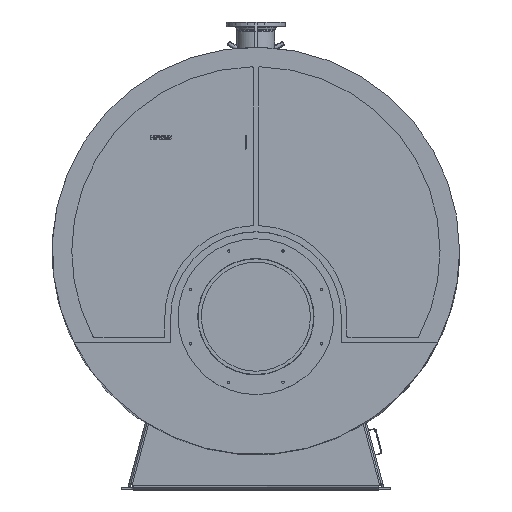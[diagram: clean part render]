
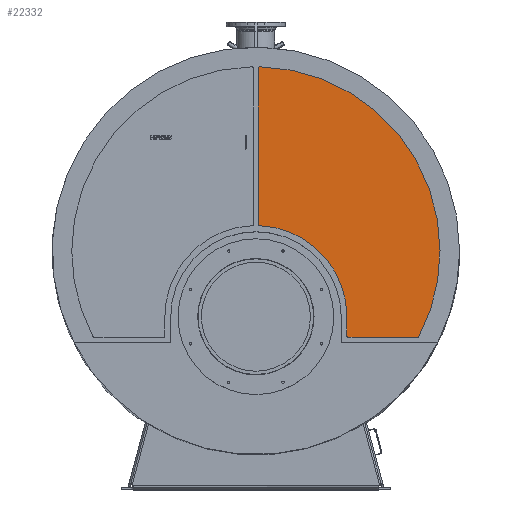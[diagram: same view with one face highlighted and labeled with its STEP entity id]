
A CAD part, top view. The second image highlights one B-rep face of the part: STEP entity #22332.
In plain terms, the highlighted planar face has unit normal (0, 0, 1).
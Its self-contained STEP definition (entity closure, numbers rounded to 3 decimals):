
#22085=CARTESIAN_POINT('',(15.,1057.792,313.));
#22086=VERTEX_POINT('',#22085);
#22087=CARTESIAN_POINT('',(15.,151.585,313.));
#22088=VERTEX_POINT('',#22087);
#22089=CARTESIAN_POINT('',(15.,1057.792,313.));
#22090=DIRECTION('',(-0.,-1.,0.));
#22091=VECTOR('',#22090,906.206);
#22092=LINE('',#22089,#22091);
#22093=EDGE_CURVE('',#22086,#22088,#22092,.T.);
#22116=CARTESIAN_POINT('',(20.763,145.59,313.));
#22117=VERTEX_POINT('',#22116);
#22118=CARTESIAN_POINT('',(526.,-380.,313.));
#22119=VERTEX_POINT('',#22118);
#22120=CARTESIAN_POINT('',(0.,-380.,313.));
#22121=DIRECTION('',(0.,0.,-1.));
#22122=DIRECTION('',(1.,0.,0.));
#22123=AXIS2_PLACEMENT_3D('',#22120,#22121,#22122);
#22124=CIRCLE('',#22123,526.);
#22125=EDGE_CURVE('',#22117,#22119,#22124,.T.);
#22149=CARTESIAN_POINT('',(526.,-493.,313.));
#22150=VERTEX_POINT('',#22149);
#22157=CARTESIAN_POINT('',(526.,-380.,313.));
#22158=DIRECTION('',(0.,-1.,0.));
#22159=VECTOR('',#22158,113.);
#22160=LINE('',#22157,#22159);
#22161=EDGE_CURVE('',#22119,#22150,#22160,.T.);
#22173=CARTESIAN_POINT('',(936.117,-499.,313.));
#22174=VERTEX_POINT('',#22173);
#22181=CARTESIAN_POINT('',(532.,-499.,313.));
#22182=VERTEX_POINT('',#22181);
#22183=CARTESIAN_POINT('',(532.,-499.,313.));
#22184=DIRECTION('',(1.,0.,-0.));
#22185=VECTOR('',#22184,404.117);
#22186=LINE('',#22183,#22185);
#22187=EDGE_CURVE('',#22182,#22174,#22186,.T.);
#22203=CARTESIAN_POINT('',(1064.,-0.,313.));
#22204=VERTEX_POINT('',#22203);
#22212=CARTESIAN_POINT('',(21.119,1063.79,313.));
#22213=VERTEX_POINT('',#22212);
#22220=CARTESIAN_POINT('',(0.,0.,313.));
#22221=DIRECTION('',(0.,0.,1.));
#22222=DIRECTION('',(1.,0.,-0.));
#22223=AXIS2_PLACEMENT_3D('',#22220,#22221,#22222);
#22224=CIRCLE('',#22223,1064.);
#22225=EDGE_CURVE('',#22204,#22213,#22224,.T.);
#22237=CARTESIAN_POINT('',(21.,1057.792,313.));
#22238=DIRECTION('',(-0.,-0.,1.));
#22239=DIRECTION('',(-1.,0.,0.));
#22240=AXIS2_PLACEMENT_3D('',#22237,#22238,#22239);
#22241=CIRCLE('',#22240,6.);
#22242=EDGE_CURVE('',#22213,#22086,#22241,.T.);
#22254=CARTESIAN_POINT('',(941.426,-495.796,313.));
#22255=VERTEX_POINT('',#22254);
#22262=CARTESIAN_POINT('',(936.117,-493.,313.));
#22263=DIRECTION('',(-0.,-0.,1.));
#22264=DIRECTION('',(-1.,0.,0.));
#22265=AXIS2_PLACEMENT_3D('',#22262,#22263,#22264);
#22266=CIRCLE('',#22265,6.);
#22267=EDGE_CURVE('',#22174,#22255,#22266,.T.);
#22280=CARTESIAN_POINT('',(532.,-493.,313.));
#22281=DIRECTION('',(-0.,-0.,1.));
#22282=DIRECTION('',(-1.,0.,0.));
#22283=AXIS2_PLACEMENT_3D('',#22280,#22281,#22282);
#22284=CIRCLE('',#22283,6.);
#22285=EDGE_CURVE('',#22150,#22182,#22284,.T.);
#22298=CARTESIAN_POINT('',(21.,151.585,313.));
#22299=DIRECTION('',(-0.,-0.,1.));
#22300=DIRECTION('',(-1.,0.,0.));
#22301=AXIS2_PLACEMENT_3D('',#22298,#22299,#22300);
#22302=CIRCLE('',#22301,6.);
#22303=EDGE_CURVE('',#22088,#22117,#22302,.T.);
#22309=CARTESIAN_POINT('',(871.069,594.284,313.));
#22310=DIRECTION('',(0.,0.,1.));
#22311=DIRECTION('',(1.,0.,0.));
#22312=AXIS2_PLACEMENT_3D('',#22309,#22310,#22311);
#22313=PLANE('',#22312);
#22314=CARTESIAN_POINT('',(0.,0.,313.));
#22315=DIRECTION('',(0.,0.,1.));
#22316=DIRECTION('',(1.,0.,-0.));
#22317=AXIS2_PLACEMENT_3D('',#22314,#22315,#22316);
#22318=CIRCLE('',#22317,1064.);
#22319=EDGE_CURVE('',#22255,#22204,#22318,.T.);
#22320=ORIENTED_EDGE('',*,*,#22319,.T.);
#22321=ORIENTED_EDGE('',*,*,#22225,.T.);
#22322=ORIENTED_EDGE('',*,*,#22242,.T.);
#22323=ORIENTED_EDGE('',*,*,#22093,.T.);
#22324=ORIENTED_EDGE('',*,*,#22303,.T.);
#22325=ORIENTED_EDGE('',*,*,#22125,.T.);
#22326=ORIENTED_EDGE('',*,*,#22161,.T.);
#22327=ORIENTED_EDGE('',*,*,#22285,.T.);
#22328=ORIENTED_EDGE('',*,*,#22187,.T.);
#22329=ORIENTED_EDGE('',*,*,#22267,.T.);
#22330=EDGE_LOOP('',(#22320,#22321,#22322,#22323,#22324,#22325,#22326,#22327,#22328,#22329));
#22331=FACE_BOUND('',#22330,.T.);
#22332=ADVANCED_FACE('',(#22331),#22313,.T.);
